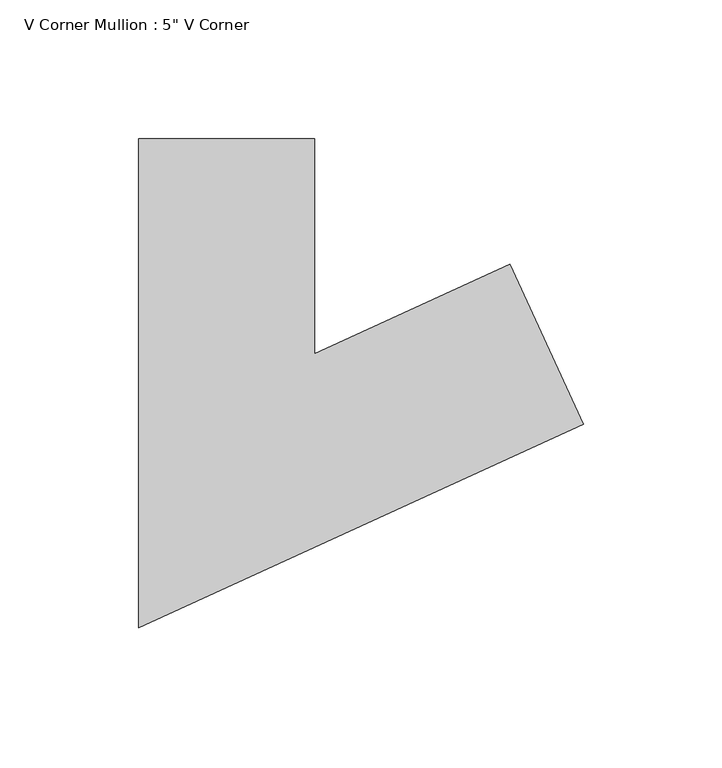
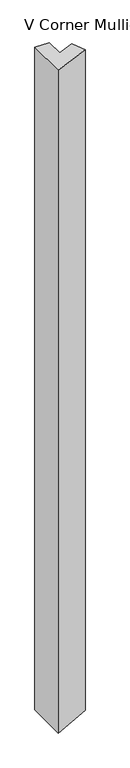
"""IFC4 building model written with IfcOpenShell, lengths in millimetres: member geometry."""

from ifc_helpers import new_model, si_unit, origin, place, context, project, spatial, faceted_brep, source, transform, mapped, element, save


def member_c2863042(model_context):
    return source(origin(), model_context, "Body", "Brep", [
        faceted_brep([(61.49523, 18.2208415, -2.2200576), (87.9205542, -39.5195451, -3.1740461), (87.9205542, -39.5195451, -3056.8199221), (61.49523, 18.2208415, -3057.4463987), (-9.0228811, -14.0523047, 0.3257377), (-9.0228811, -14.0523047, -3059.1182021), (-9.0228811, 63.5, 0.3257377), (-9.0228811, 63.5, -3059.1182021), (-72.5228811, 63.5, 2.6181701), (-72.5228811, 63.5, -3060.6236241), (-72.5228811, -112.9476953, 2.6181701), (-72.5228811, -112.9476953, -3060.6236241)], [[[0, 1, 2, 3]], [[4, 0, 3, 5]], [[6, 4, 5, 7]], [[8, 6, 7, 9]], [[10, 8, 9, 11]], [[1, 10, 11, 2]], [[1, 0, 4, 6, 8, 10]], [[2, 11, 9, 7, 5, 3]]]),
    ])


if __name__ == "__main__":
    model = new_model("IFC4")
    model_context = context("Model", 3, world=origin())
    ifc_project = project(units=[si_unit("LENGTHUNIT", "METRE", prefix="MILLI")], contexts=[model_context])
    site = spatial("IfcSite", under=ifc_project)
    building = spatial("IfcBuilding", under=site)
    placement = place(None, origin())
    member_shape = member_c2863042(model_context)
    element("IfcMember", 1, ObjectType="V Corner Mullion : 5\" V Corner", at=placement, inside=building, context=model_context, shape_type="MappedRepresentation", body=[
        mapped(member_shape, transform((0.0, 0.0, 0.0), x_axis=(1.0, 0.0, 0.0), y_axis=(0.0, 1.0, 0.0), z_axis=(0.0, 0.0, 1.0))),
    ])
    save(model, "model.ifc")
